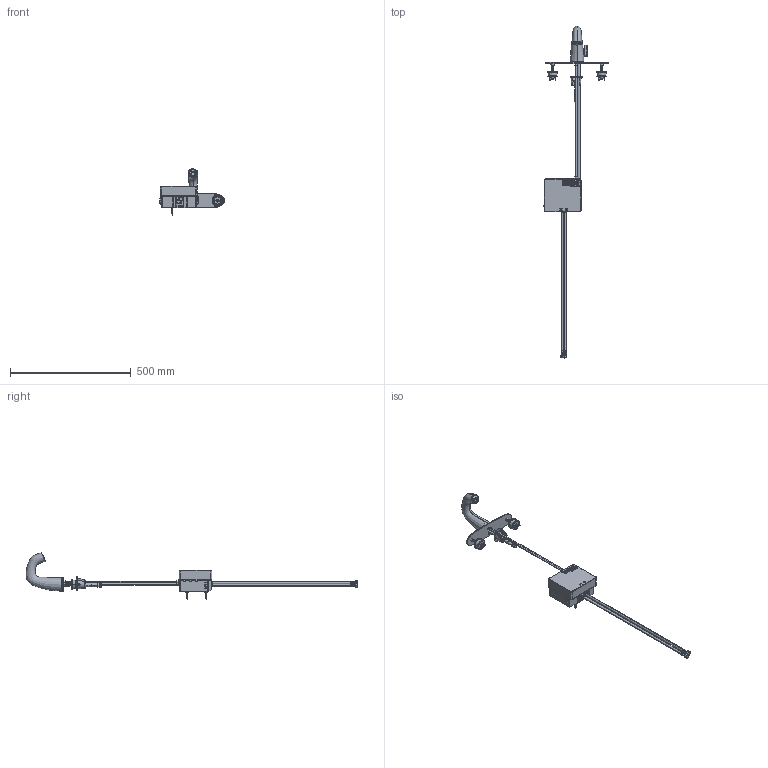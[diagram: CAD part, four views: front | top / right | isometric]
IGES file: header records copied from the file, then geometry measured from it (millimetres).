
Start section:  PTC IGES file: eq-a23a-14abcp_sw0001.igs
Global section: file name: eq-a23a-14abcp_sw0001.igs; native system: Creo Parametric by Parametric Technology Corporation; preprocessor: 2014310; author: rodjo; organization: Unknown; date: 20150422.154029; units: inch
Bounding box: 267.97 x 1376.02 x 191.97 mm (x, y, z)
Surface area: 353607.3 mm2 (no closed solid volume)
Topology: 0 solids, 0 shells, 1378 faces, 12941 edges, 18002 vertices
Faces by surface type: revolution 693, bspline 659, extrusion 26
